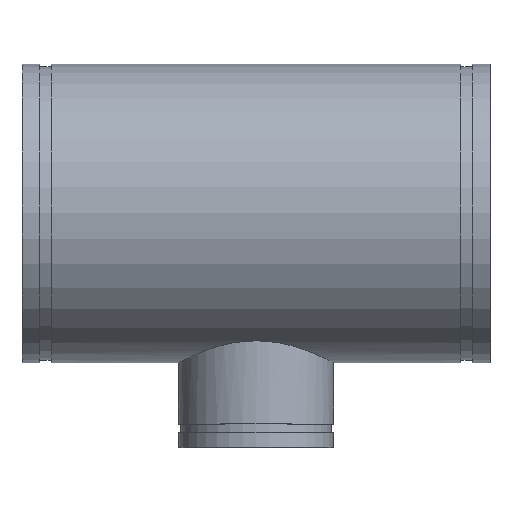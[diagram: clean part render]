
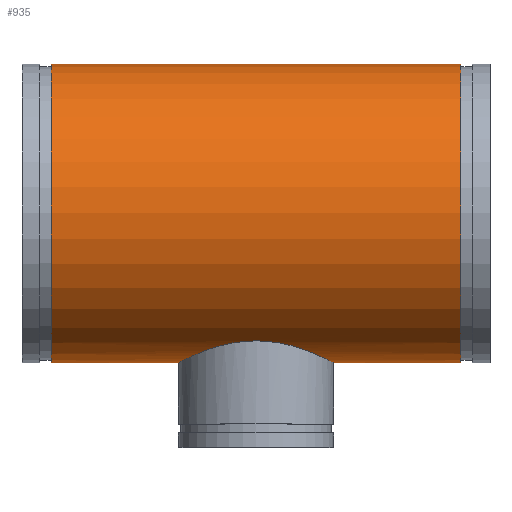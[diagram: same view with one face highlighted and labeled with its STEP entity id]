
A CAD part, top view. The second image highlights one B-rep face of the part: STEP entity #935.
In plain terms, the highlighted cylindrical face has radius 161.925 mm (diameter 323.85 mm), a full revolution.
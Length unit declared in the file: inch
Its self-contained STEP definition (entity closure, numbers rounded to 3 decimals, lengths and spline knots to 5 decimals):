
#61=FACE_BOUND('',#222,.T.);
#67=B_SPLINE_CURVE_WITH_KNOTS('',3,(#1807,#1808,#1809,#1810,#1811,#1812,
#1813,#1814,#1815,#1816,#1817,#1818,#1819,#1820,#1821,#1822,#1823,#1824),
 .UNSPECIFIED.,.F.,.F.,(4,2,2,2,2,2,2,2,4),(0.,1.62275,3.2455,
4.86825,6.491,8.10848,9.72595,11.34342,
12.96089),.UNSPECIFIED.);
#68=B_SPLINE_CURVE_WITH_KNOTS('',3,(#1825,#1826,#1827,#1828,#1829,#1830,
#1831,#1832,#1833,#1834,#1835,#1836,#1837,#1838,#1839,#1840,#1841,#1842,
#1843,#1844,#1845,#1846,#1847,#1848,#1849,#1850,#1851,#1852,#1853,#1854,
#1855,#1856,#1857,#1858,#1859,#1860,#1861,#1862,#1863,#1864,#1865,#1866,
#1867,#1868,#1869,#1870,#1871,#1872,#1873,#1874),.UNSPECIFIED.,.F.,.F.,
(4,2,2,2,2,2,2,2,2,2,2,2,2,2,2,2,2,2,2,2,2,2,2,2,4),(12.96089,14.57836,
16.19583,17.81331,19.43078,21.05353,22.67628,
24.29903,25.92178,27.54453,29.16728,30.79004,
32.41279,34.03026,35.64773,37.2652,38.88267,
40.50014,42.11762,43.73509,45.35256,46.97531,
48.59806,50.22081,51.84356),.UNSPECIFIED.);
#81=CYLINDRICAL_SURFACE('',#1104,6.375);
#103=LINE('',#1804,#125);
#125=VECTOR('',#1432,6.375);
#171=FACE_OUTER_BOUND('',#221,.T.);
#221=EDGE_LOOP('',(#814,#815,#816,#817));
#222=EDGE_LOOP('',(#818,#819));
#326=CIRCLE('',#1087,6.375);
#337=CIRCLE('',#1103,6.375);
#424=VERTEX_POINT('',#1772);
#435=VERTEX_POINT('',#1801);
#436=VERTEX_POINT('',#1805);
#437=VERTEX_POINT('',#1806);
#552=EDGE_CURVE('',#424,#424,#326,.T.);
#565=EDGE_CURVE('',#435,#435,#337,.T.);
#566=EDGE_CURVE('',#435,#424,#103,.T.);
#567=EDGE_CURVE('',#436,#437,#67,.T.);
#568=EDGE_CURVE('',#437,#436,#68,.T.);
#814=ORIENTED_EDGE('',*,*,#565,.T.);
#815=ORIENTED_EDGE('',*,*,#566,.T.);
#816=ORIENTED_EDGE('',*,*,#552,.T.);
#817=ORIENTED_EDGE('',*,*,#566,.F.);
#818=ORIENTED_EDGE('',*,*,#567,.T.);
#819=ORIENTED_EDGE('',*,*,#568,.T.);
#935=ADVANCED_FACE('',(#171,#61),#81,.T.);
#1087=AXIS2_PLACEMENT_3D('',#1773,#1394,#1395);
#1103=AXIS2_PLACEMENT_3D('',#1802,#1428,#1429);
#1104=AXIS2_PLACEMENT_3D('',#1803,#1430,#1431);
#1394=DIRECTION('center_axis',(-1.,0.,0.));
#1395=DIRECTION('ref_axis',(0.,-1.,0.));
#1428=DIRECTION('center_axis',(1.,0.,0.));
#1429=DIRECTION('ref_axis',(0.,-1.,0.));
#1430=DIRECTION('center_axis',(-1.,0.,0.));
#1431=DIRECTION('ref_axis',(0.,-1.,0.));
#1432=DIRECTION('',(1.,0.,0.));
#1772=CARTESIAN_POINT('',(8.75,6.375,0.));
#1773=CARTESIAN_POINT('Origin',(8.75,0.,0.));
#1801=CARTESIAN_POINT('',(-8.75,6.375,0.));
#1802=CARTESIAN_POINT('Origin',(-8.75,0.,0.));
#1803=CARTESIAN_POINT('Origin',(10.,0.,0.));
#1804=CARTESIAN_POINT('',(10.,6.375,0.));
#1805=CARTESIAN_POINT('',(0.,-5.44683,-3.3125));
#1806=CARTESIAN_POINT('',(-3.3125,-6.375,0.));
#1807=CARTESIAN_POINT('Ctrl Pts',(0.,-5.44683,-3.3125));
#1808=CARTESIAN_POINT('Ctrl Pts',(-0.21296,-5.44683,
-3.3125));
#1809=CARTESIAN_POINT('Ctrl Pts',(-0.43143,-5.45969,-3.29164));
#1810=CARTESIAN_POINT('Ctrl Pts',(-0.8629,-5.5106,
-3.20569));
#1811=CARTESIAN_POINT('Ctrl Pts',(-1.07592,-5.54855,-3.14063));
#1812=CARTESIAN_POINT('Ctrl Pts',(-1.48225,-5.64145,-2.97054));
#1813=CARTESIAN_POINT('Ctrl Pts',(-1.67596,-5.69633,-2.86537));
#1814=CARTESIAN_POINT('Ctrl Pts',(-2.03346,-5.81157,-2.62378));
#1815=CARTESIAN_POINT('Ctrl Pts',(-2.19726,-5.87181,-2.48732));
#1816=CARTESIAN_POINT('Ctrl Pts',(-2.48685,-5.98621,-2.19773));
#1817=CARTESIAN_POINT('Ctrl Pts',(-2.62324,-6.04464,-2.03417));
#1818=CARTESIAN_POINT('Ctrl Pts',(-2.86502,-6.15342,-1.67658));
#1819=CARTESIAN_POINT('Ctrl Pts',(-2.97042,-6.2037,-1.48254));
#1820=CARTESIAN_POINT('Ctrl Pts',(-3.1408,-6.28705,-1.07551));
#1821=CARTESIAN_POINT('Ctrl Pts',(-3.2059,-6.32016,-0.86213));
#1822=CARTESIAN_POINT('Ctrl Pts',(-3.29177,-6.36414,-0.43052));
#1823=CARTESIAN_POINT('Ctrl Pts',(-3.3125,-6.375,-0.21227));
#1824=CARTESIAN_POINT('Ctrl Pts',(-3.3125,-6.375,0.));
#1825=CARTESIAN_POINT('Ctrl Pts',(-3.3125,-6.375,0.));
#1826=CARTESIAN_POINT('Ctrl Pts',(-3.3125,-6.375,0.21227));
#1827=CARTESIAN_POINT('Ctrl Pts',(-3.29177,-6.36414,0.43052));
#1828=CARTESIAN_POINT('Ctrl Pts',(-3.2059,-6.32016,0.86213));
#1829=CARTESIAN_POINT('Ctrl Pts',(-3.1408,-6.28705,1.07551));
#1830=CARTESIAN_POINT('Ctrl Pts',(-2.97042,-6.2037,1.48254));
#1831=CARTESIAN_POINT('Ctrl Pts',(-2.86502,-6.15342,1.67658));
#1832=CARTESIAN_POINT('Ctrl Pts',(-2.62324,-6.04464,2.03417));
#1833=CARTESIAN_POINT('Ctrl Pts',(-2.48685,-5.98621,2.19773));
#1834=CARTESIAN_POINT('Ctrl Pts',(-2.19726,-5.87181,2.48732));
#1835=CARTESIAN_POINT('Ctrl Pts',(-2.03346,-5.81157,2.62378));
#1836=CARTESIAN_POINT('Ctrl Pts',(-1.67596,-5.69633,2.86537));
#1837=CARTESIAN_POINT('Ctrl Pts',(-1.48225,-5.64145,2.97054));
#1838=CARTESIAN_POINT('Ctrl Pts',(-1.07592,-5.54855,3.14063));
#1839=CARTESIAN_POINT('Ctrl Pts',(-0.8629,-5.5106,
3.20569));
#1840=CARTESIAN_POINT('Ctrl Pts',(-0.43143,-5.45969,3.29164));
#1841=CARTESIAN_POINT('Ctrl Pts',(-0.21296,-5.44683,
3.3125));
#1842=CARTESIAN_POINT('Ctrl Pts',(0.21296,-5.44683,3.3125));
#1843=CARTESIAN_POINT('Ctrl Pts',(0.43143,-5.45969,3.29164));
#1844=CARTESIAN_POINT('Ctrl Pts',(0.8629,-5.5106,3.20569));
#1845=CARTESIAN_POINT('Ctrl Pts',(1.07592,-5.54855,3.14063));
#1846=CARTESIAN_POINT('Ctrl Pts',(1.48225,-5.64145,2.97054));
#1847=CARTESIAN_POINT('Ctrl Pts',(1.67596,-5.69633,2.86537));
#1848=CARTESIAN_POINT('Ctrl Pts',(2.03346,-5.81157,2.62378));
#1849=CARTESIAN_POINT('Ctrl Pts',(2.19726,-5.87181,2.48732));
#1850=CARTESIAN_POINT('Ctrl Pts',(2.48685,-5.98621,2.19773));
#1851=CARTESIAN_POINT('Ctrl Pts',(2.62324,-6.04464,2.03417));
#1852=CARTESIAN_POINT('Ctrl Pts',(2.86502,-6.15342,1.67658));
#1853=CARTESIAN_POINT('Ctrl Pts',(2.97042,-6.2037,1.48254));
#1854=CARTESIAN_POINT('Ctrl Pts',(3.1408,-6.28705,1.07551));
#1855=CARTESIAN_POINT('Ctrl Pts',(3.2059,-6.32016,0.86213));
#1856=CARTESIAN_POINT('Ctrl Pts',(3.29177,-6.36414,0.43052));
#1857=CARTESIAN_POINT('Ctrl Pts',(3.3125,-6.375,0.21227));
#1858=CARTESIAN_POINT('Ctrl Pts',(3.3125,-6.375,-0.21227));
#1859=CARTESIAN_POINT('Ctrl Pts',(3.29177,-6.36414,-0.43052));
#1860=CARTESIAN_POINT('Ctrl Pts',(3.2059,-6.32016,-0.86213));
#1861=CARTESIAN_POINT('Ctrl Pts',(3.1408,-6.28705,-1.07551));
#1862=CARTESIAN_POINT('Ctrl Pts',(2.97042,-6.2037,-1.48254));
#1863=CARTESIAN_POINT('Ctrl Pts',(2.86502,-6.15342,-1.67658));
#1864=CARTESIAN_POINT('Ctrl Pts',(2.62324,-6.04464,-2.03417));
#1865=CARTESIAN_POINT('Ctrl Pts',(2.48685,-5.98621,-2.19773));
#1866=CARTESIAN_POINT('Ctrl Pts',(2.19726,-5.87181,-2.48732));
#1867=CARTESIAN_POINT('Ctrl Pts',(2.03346,-5.81157,-2.62378));
#1868=CARTESIAN_POINT('Ctrl Pts',(1.67596,-5.69633,-2.86537));
#1869=CARTESIAN_POINT('Ctrl Pts',(1.48225,-5.64145,-2.97054));
#1870=CARTESIAN_POINT('Ctrl Pts',(1.07592,-5.54855,-3.14063));
#1871=CARTESIAN_POINT('Ctrl Pts',(0.8629,-5.5106,-3.20569));
#1872=CARTESIAN_POINT('Ctrl Pts',(0.43143,-5.45969,-3.29164));
#1873=CARTESIAN_POINT('Ctrl Pts',(0.21296,-5.44683,-3.3125));
#1874=CARTESIAN_POINT('Ctrl Pts',(0.,-5.44683,
-3.3125));
